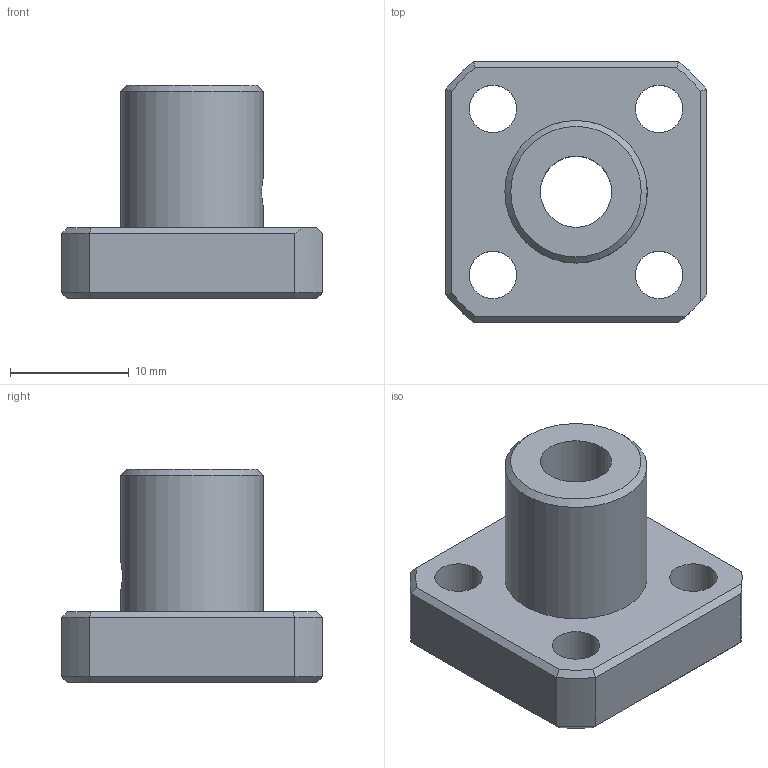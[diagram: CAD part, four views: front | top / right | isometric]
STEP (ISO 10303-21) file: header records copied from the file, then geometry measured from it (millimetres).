
FILE_DESCRIPTION((''),'2;1');
FILE_NAME('D:\製品 (図面)\カタログ用3D\シャフトブロック関連\STEP形式\SFW\SFW6.stp','2010-06-01T16:30:41',('Tsuchiya'),(''),'Autodesk Inventor 10','Autodesk Inventor 10','');
FILE_SCHEMA(('AUTOMOTIVE_DESIGN { 1 0 10303 214 1 1 1 1 }'));
Length unit declared in the file: millimetre
Products named in the file (1): SFW6
Bounding box: 22 x 22 x 18 mm (x, y, z)
Volume: 3353.9 mm3; surface area: 2333.7 mm2
Topology: 1 solids, 1 shells, 52 faces, 128 edges, 82 vertices
Faces by surface type: plane 29, cylinder 10, cone 9, bspline 4
Full cylindrical faces by diameter (mm): 4 x4, 6 x1, 12 x1
Entity records: 1599 total; most frequent: CARTESIAN_POINT 430, DIRECTION 224, ORIENTED_EDGE 222, EDGE_CURVE 111, AXIS2_PLACEMENT_3D 82, EDGE_LOOP 77, VERTEX_POINT 76, VECTOR 60
